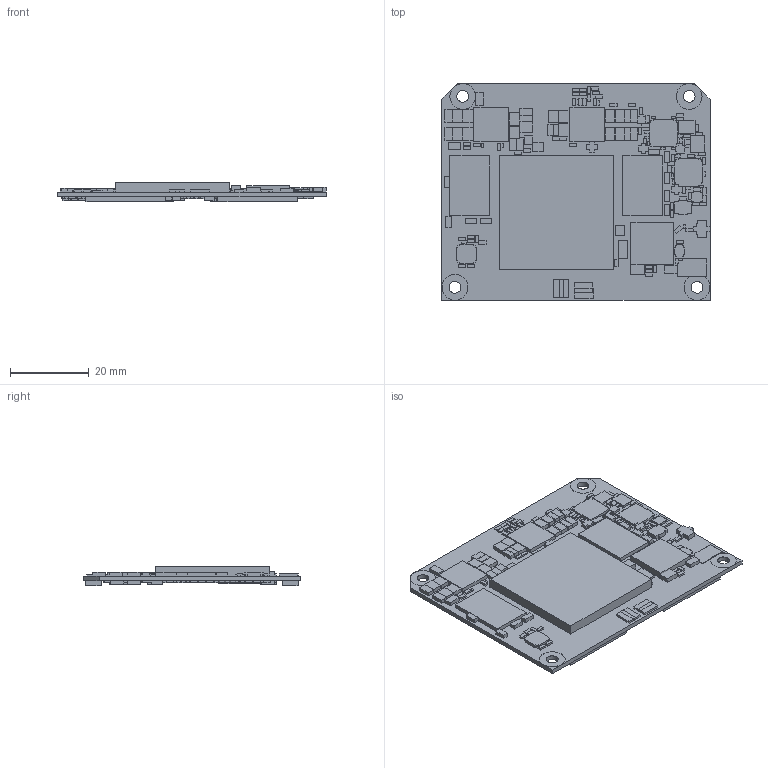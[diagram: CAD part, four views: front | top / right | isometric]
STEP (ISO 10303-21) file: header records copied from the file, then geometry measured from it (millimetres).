
FILE_DESCRIPTION (( 'STEP AP214' ), '1' );
FILE_NAME ('VPC0416-4U-F-FINAL1.STEP', '2022-04-04T10:09:25', ( 'Äãñëí' ), ( '' ), 'SwSTEP 2.0', 'SolidWorks 2022', '' );
FILE_SCHEMA (( 'AUTOMOTIVE_DESIGN' ));
Length unit declared in the file: millimetre
Products named in the file (1): VPC0416-4U-F-FINAL1
Bounding box: 68.01 x 55.01 x 4.97 mm (x, y, z)
Volume: 8494.1 mm3; surface area: 16989.3 mm2
Topology: 529 solids, 529 shells, 3464 faces, 7218 edges, 4812 vertices
Faces by surface type: plane 3436, cylinder 28
Entity records: 132784 total; most frequent: CARTESIAN_POINT 15495, ORIENTED_EDGE 14436, DIRECTION 14204, EDGE_CURVE 7218, VECTOR 7162, LINE 7162, VERTEX_POINT 4812, UNCERTAINTY_MEASURE_WITH_UNIT 3979
